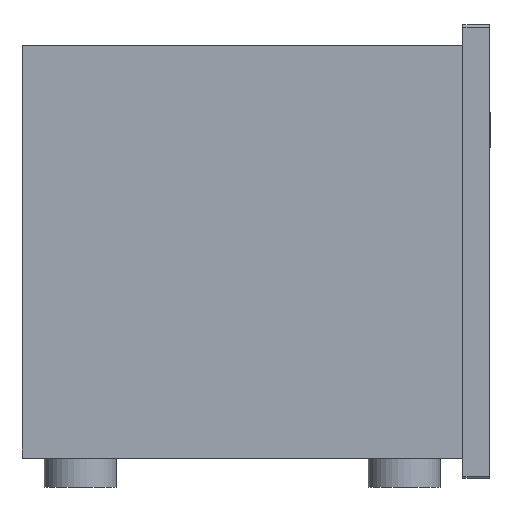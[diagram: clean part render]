
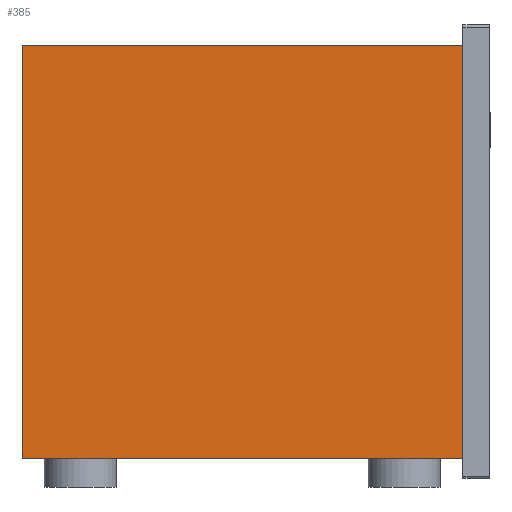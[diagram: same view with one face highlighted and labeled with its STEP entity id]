
A CAD part, left-side view. The second image highlights one B-rep face of the part: STEP entity #385.
In plain terms, the highlighted planar face has unit normal (-1, 0, 0).
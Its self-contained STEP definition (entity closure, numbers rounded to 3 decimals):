
#385=ADVANCED_FACE('',(#617),#527,.F.);
#527=PLANE('',#2448);
#617=FACE_OUTER_BOUND('',#738,.T.);
#738=EDGE_LOOP('',(#904,#905,#906,#907));
#904=ORIENTED_EDGE('',*,*,#1728,.T.);
#905=ORIENTED_EDGE('',*,*,#1729,.F.);
#906=ORIENTED_EDGE('',*,*,#1730,.F.);
#907=ORIENTED_EDGE('',*,*,#1731,.T.);
#1516=VERTEX_POINT('',#3303);
#1517=VERTEX_POINT('',#3304);
#1518=VERTEX_POINT('',#3306);
#1519=VERTEX_POINT('',#3308);
#1728=EDGE_CURVE('',#1516,#1517,#2034,.T.);
#1729=EDGE_CURVE('',#1518,#1517,#2035,.T.);
#1730=EDGE_CURVE('',#1519,#1518,#2036,.T.);
#1731=EDGE_CURVE('',#1519,#1516,#2037,.T.);
#2034=LINE('',#3302,#2235);
#2035=LINE('',#3305,#2236);
#2036=LINE('',#3307,#2237);
#2037=LINE('',#3309,#2238);
#2235=VECTOR('',#2663,1.);
#2236=VECTOR('',#2664,1.);
#2237=VECTOR('',#2665,1.);
#2238=VECTOR('',#2666,1.);
#2448=AXIS2_PLACEMENT_3D('',#3310,#2667,#2668);
#2663=DIRECTION('',(0.,-1.,0.));
#2664=DIRECTION('',(0.,0.,-1.));
#2665=DIRECTION('',(0.,-1.,0.));
#2666=DIRECTION('',(0.,0.,-1.));
#2667=DIRECTION('',(1.,0.,0.));
#2668=DIRECTION('',(0.,0.,-1.));
#3302=CARTESIAN_POINT('',(-384.603,105.214,0.));
#3303=CARTESIAN_POINT('',(-384.603,105.214,0.));
#3304=CARTESIAN_POINT('',(-384.603,-271.786,0.));
#3305=CARTESIAN_POINT('',(-384.603,-271.786,353.));
#3306=CARTESIAN_POINT('',(-384.603,-271.786,353.));
#3307=CARTESIAN_POINT('',(-384.603,105.214,353.));
#3308=CARTESIAN_POINT('',(-384.603,105.214,353.));
#3309=CARTESIAN_POINT('',(-384.603,105.214,353.));
#3310=CARTESIAN_POINT('',(-384.603,105.214,353.));
